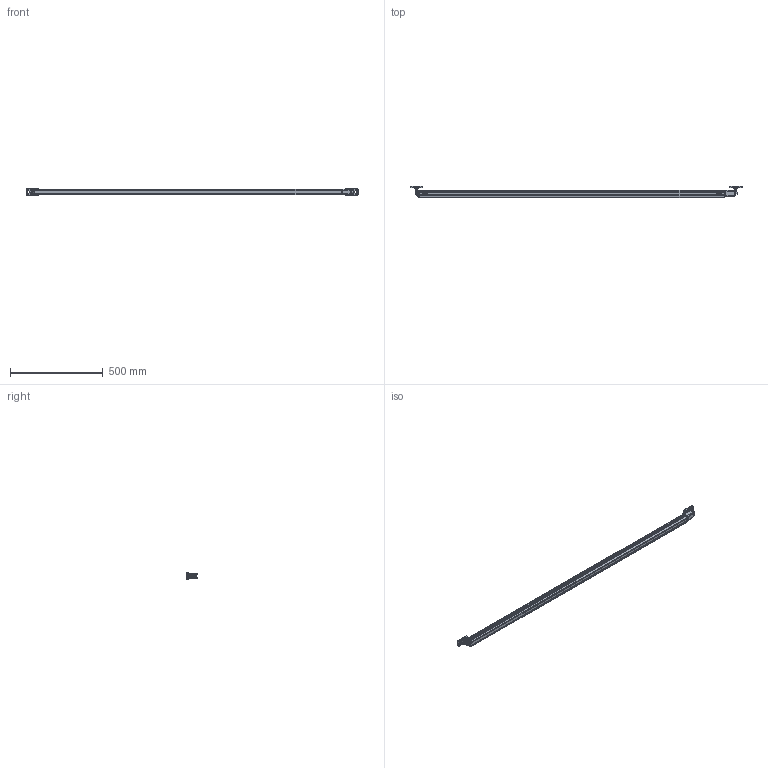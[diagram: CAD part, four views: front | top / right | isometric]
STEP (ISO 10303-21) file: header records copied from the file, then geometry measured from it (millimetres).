
FILE_DESCRIPTION((''),'2;1');
FILE_NAME('M:\INVENTORjob\Konstruktion\LV6036\Freigabe\Bauraummodelle\Geräte\stp\MLC_R_1650 EX-V2.stp','2016-02-05T10:38:56',('phaberl'),(''),'Autodesk Inventor 2009','Autodesk Inventor 2009','');
FILE_SCHEMA(('AUTOMOTIVE_DESIGN { 1 0 10303 214 1 1 1 1 }'));
Length unit declared in the file: millimetre
Products named in the file (15): MLC_R_1650 EX-V2; Anschlusskappe_R; Profil MLC 1650 EX-V2; Endkappe_R; BT-R_Zubehör; Wandteil_Zubehör; Klemmring_BT-R_Zubehör; DIN 912 - ersetzt durch DIN EN ISO 4762 M5 x 12; DIN 934 - ersetzt durch DIN EN 24032/28673/28674 M5; DIN 6912 M5 x 30; Zylinder_Zubehör; DIN 7991 - ersetzt durch DIN EN ISO 10642 M6  x  10; Nutenstein M6; EX-Ring Endkappe-R-V2; EX-Ring Anschlusskappe-R-V2
Assembly tree (18 placements, depth 3):
  MLC_R_1650 EX-V2
    Anschlusskappe_R
    Profil MLC 1650 EX-V2
    Endkappe_R
    BT-R_Zubehör  x2
      Wandteil_Zubehör
      Klemmring_BT-R_Zubehör
      DIN 912 - ersetzt durch DIN EN ISO 4762 M5 x 12
      DIN 934 - ersetzt durch DIN EN 24032/28673/28674 M5
      DIN 6912 M5 x 30
    Zylinder_Zubehör
    DIN 7991 - ersetzt durch DIN EN ISO 10642 M6  x  10
    Nutenstein M6  x2
    EX-Ring Endkappe-R-V2
    EX-Ring Anschlusskappe-R-V2
Bounding box: 1789.15 x 59.5 x 34 mm (x, y, z)
Volume: 1731047.5 mm3; surface area: 347940.2 mm2
Topology: 23 solids, 23 shells, 927 faces, 2463 edges, 1569 vertices
Faces by surface type: plane 400, cylinder 295, bspline 121, torus 47, cone 46, sphere 18
Full cylindrical faces by diameter (mm): 2.5 x2, 4.65 x2, 5 x12, 5.18 x2, 5.55 x2, 6 x1, 6.2 x9, 8.5 x4, 8.6 x2, 11.34 x1, 12 x2, 18 x1, 22.5 x1
Entity records: 17363 total; most frequent: CARTESIAN_POINT 5066, ORIENTED_EDGE 2498, DIRECTION 2409, EDGE_CURVE 1249, AXIS2_PLACEMENT_3D 858, VERTEX_POINT 833, VECTOR 693, LINE 693
